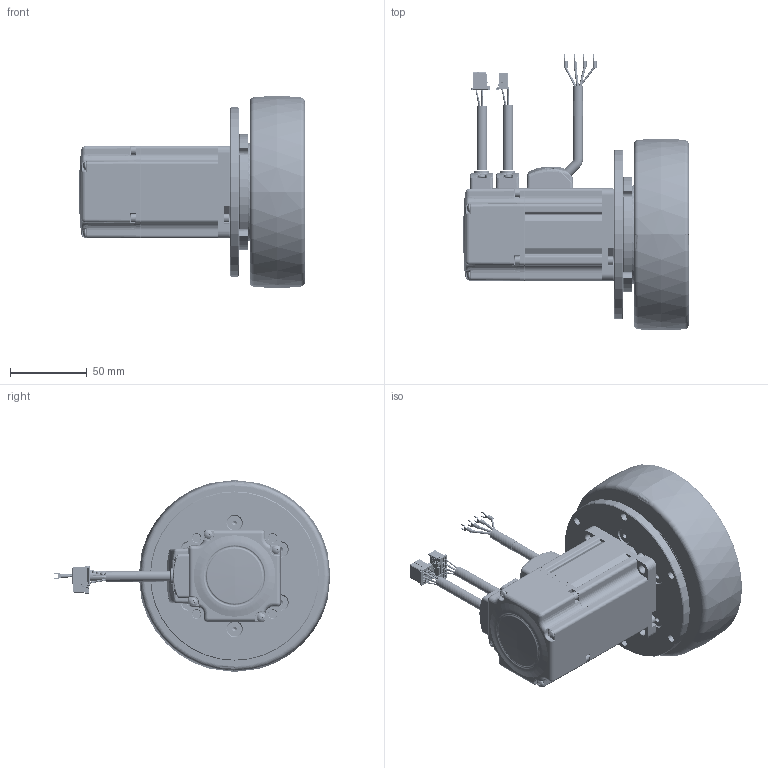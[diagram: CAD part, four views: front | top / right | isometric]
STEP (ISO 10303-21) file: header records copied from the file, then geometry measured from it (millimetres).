
FILE_DESCRIPTION((''),'2;1');
FILE_NAME('MSD125--020-30GEL-N_ASM','2026-05-21T14:50:37',('MS28159'),(''),'CREO PARAMETRIC BY PTC INC, 2018100','CREO PARAMETRIC BY PTC INC, 2018100','');
FILE_SCHEMA(('CONFIG_CONTROL_DESIGN'));
Products named in the file (69): M5-10-6-SOLID10001_1_1; M5-10-3-SOLID10001_1_1; 0226-1-1-SOLID1000_1_1; NONE_1_1_1; M5-10-2-SOLID10001_1_1; M5-10-5-SOLID10001_1_1; M5-10-1-SOLID10001_1_1; M5-10-4-SOLID10001_1_1; 125_X2_8F6E5F84_X0_-9_X2_6BD4_1_ASM; 1_100_1_1; __3_10001_1_1; 3698201102333_80SV__X2_530580_2_ASM; ASM0006_ASM_1_ASM_1_ASM; AEQ092-09-8_43_ASM_1_ASM_1_ASM; MSD125--020-30GL-0001_ASM_1_ASM; 4294404000400-7-SOLID1_1_2; 4613108100087_A0-1_4332101206_3; _54650001; _97460001; 4634140203189-1-SOLID2_1_2; NONE-10899; 4294404000400-5-SOLID1_1_2; 4294404000400-1-SOLID1_1_2; 4613103300194_A0-1_4219130000_3; AGV-1-SOLID1_10001; AGV-4-SOLID1_10001; NONE-50590; _560150001; NONE-59850; _635270001; _718080001; 4294440100155-6-SOLID1_1_2; 4613103300194_A0-1_4219120000_3; AGV-3-SOLID1_10001; 4294404000400-6-SOLID1_1_2; 4219121500052-1-SOLID1_1_2; 4294404000400-2-SOLID1_1_2; NONE-92612; 4294440100155-2-SOLID1_1_2; 4294440100155-4-SOLID1_1_2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
Assembly tree (68 placements, depth 6):
  MSD125--020-30GEL-N_ASM
    MSD125--020-30GL-0001_ASM_1_ASM
      AEQ092-09-8_43_ASM_1_ASM_1_ASM
        125_X2_8F6E5F84_X0_-9_X2_6BD4_1_ASM
          M5-10-6-SOLID10001_1_1
          M5-10-3-SOLID10001_1_1
          0226-1-1-SOLID1000_1_1
          NONE_1_1_1
          M5-10-2-SOLID10001_1_1
          M5-10-5-SOLID10001_1_1
          M5-10-1-SOLID10001_1_1
          M5-10-4-SOLID10001_1_1
        ASM0006_ASM_1_ASM_1_ASM
          3698201102333_80SV__X2_530580_2_ASM
            1_100_1_1
            __3_10001_1_1
    SM0601-EL-KCY-NNV_ASM
      4611170000917_A0_ASM
        4294404000400-7-SOLID1_1_2
        4613108100087_A0-1_4332101206_3
        _54650001
        _97460001
        4634140203189-1-SOLID2_1_2
        NONE-10899
        4294404000400-5-SOLID1_1_2
        4294404000400-1-SOLID1_1_2
        4613103300194_A0-1_4219130000_3
        AGV-1-SOLID1_10001
        AGV-4-SOLID1_10001
        NONE-50590
        _560150001
        NONE-59850
        _635270001
        _718080001
        4294440100155-6-SOLID1_1_2
        4613103300194_A0-1_4219120000_3
        AGV-3-SOLID1_10001
        4294404000400-6-SOLID1_1_2
        4219121500052-1-SOLID1_1_2
        4294404000400-2-SOLID1_1_2
        NONE-92612
        4294440100155-2-SOLID1_1_2
        4294440100155-4-SOLID1_1_2
        4613103300194_A0-1_42944-102876
        4294440100155-9-SOLID1_1_2
        4613103300194_A0-1_3698154000_3
        4294404000418-2-SOLID1
        4634140203189-1-SOLID1_1_2
        NONE-117672
        4294404000418-3-SOLID1
        4294404000400-8-SOLID1_1_2
        _1347540001
        4219121300897-1-SOLID1_1_2
        4219121500052-1-SOLID2_1_2
        4294440100155-3-SOLID1_1_2
        _1419920001
        4613103300194_A0-1_362741000004
        NONE-143593
        4294404000418-1-SOLID1
        4294404000400-4-SOLID1_1_2
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Bounding box: 146.8 x 180.17 x 124.79 mm (x, y, z)
Volume: 600775.8 mm3; surface area: 250183 mm2
Topology: 61 solids, 76 shells, 4523 faces, 11521 edges, 7181 vertices
Faces by surface type: plane 1815, cylinder 1309, cone 499, torus 357, bspline 240, extrusion 169, sphere 134
Entity records: 256644 total; most frequent: CARTESIAN_POINT 147755, ORIENTED_EDGE 22652, DIRECTION 22014, EDGE_CURVE 11326, AXIS2_PLACEMENT_3D 8036, VERTEX_POINT 7181, VECTOR 5942, LINE 5773
